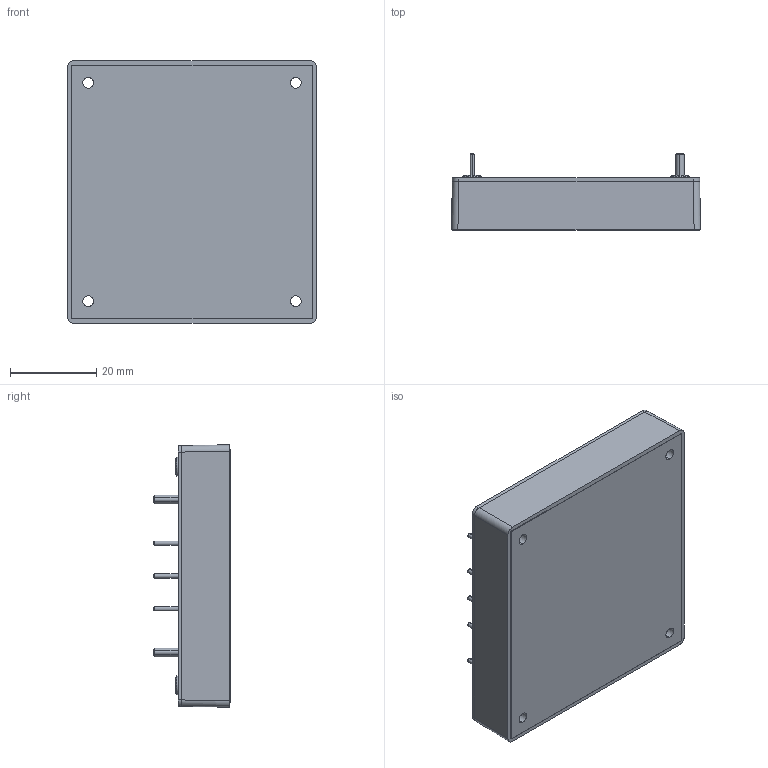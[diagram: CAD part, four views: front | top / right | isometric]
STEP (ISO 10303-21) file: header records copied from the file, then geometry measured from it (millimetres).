
FILE_DESCRIPTION (( 'STEP AP214' ), '1' );
FILE_NAME ('TEP 200 PCB-mount.STEP', '2022-05-09T08:53:06', ( '' ), ( '' ), 'SwSTEP 2.0', 'SolidWorks 2016', '' );
FILE_SCHEMA (( 'AUTOMOTIVE_DESIGN' ));
Length unit declared in the file: millimetre
Products named in the file (1): TEP 200 PCB-mount
Bounding box: 57.9 x 17.78 x 61 mm (x, y, z)
Volume: 42248.8 mm3; surface area: 10441.4 mm2
Topology: 1 solids, 1 shells, 101 faces, 224 edges, 140 vertices
Faces by surface type: cone 36, cylinder 36, plane 29
Entity records: 3445 total; most frequent: DIRECTION 532, CARTESIAN_POINT 514, ORIENTED_EDGE 448, EDGE_CURVE 224, AXIS2_PLACEMENT_3D 214, VERTEX_POINT 140, EDGE_LOOP 124, CIRCLE 112
